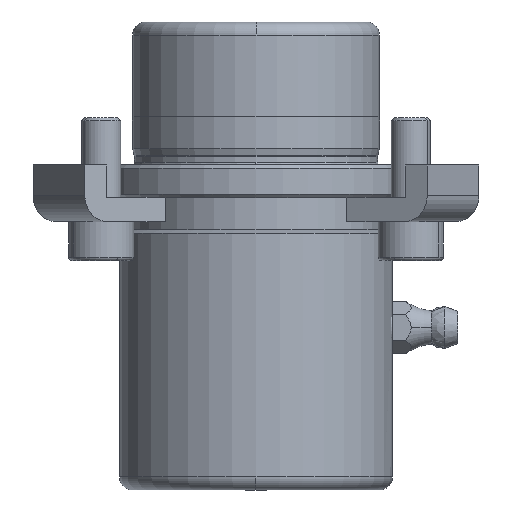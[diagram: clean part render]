
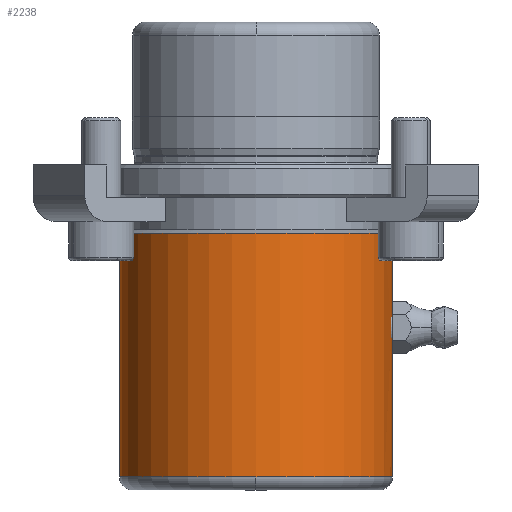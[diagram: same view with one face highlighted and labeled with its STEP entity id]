
A CAD part, front view. The second image highlights one B-rep face of the part: STEP entity #2238.
In plain terms, the highlighted cylindrical face has radius 21 mm (diameter 42 mm), a partial arc.
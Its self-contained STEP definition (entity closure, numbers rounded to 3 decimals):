
#604=CARTESIAN_POINT('',(0.,-21.,-48.));
#605=VERTEX_POINT('',#604);
#613=CARTESIAN_POINT('',(-21.0,0.,-48.0));
#614=VERTEX_POINT('',#613);
#615=CARTESIAN_POINT('',(0.0,0.,-48.0));
#616=DIRECTION('',(0.0,0.0,-1.0));
#617=DIRECTION('',(1.0,0.0,0.0));
#618=AXIS2_PLACEMENT_3D('',#615,#616,#617);
#619=CIRCLE('',#618,21.0);
#620=EDGE_CURVE('',#605,#614,#619,.T.);
#637=CARTESIAN_POINT('',(21.0,0.,-48.0));
#638=VERTEX_POINT('',#637);
#639=CARTESIAN_POINT('',(21.0,0.,-27.5));
#640=VERTEX_POINT('',#639);
#641=CARTESIAN_POINT('',(21.0,0.,-48.0));
#642=DIRECTION('',(0.0,0.0,1.0));
#643=VECTOR('',#642,20.5);
#644=LINE('',#641,#643);
#645=EDGE_CURVE('',#638,#640,#644,.T.);
#655=CARTESIAN_POINT('',(-21.0,0.,-10.5));
#656=VERTEX_POINT('',#655);
#657=CARTESIAN_POINT('',(-21.0,0.,-48.0));
#658=DIRECTION('',(0.0,0.0,1.0));
#659=VECTOR('',#658,37.5);
#660=LINE('',#657,#659);
#661=EDGE_CURVE('',#614,#656,#660,.T.);
#663=CARTESIAN_POINT('',(21.0,0.,-10.5));
#664=VERTEX_POINT('',#663);
#672=CARTESIAN_POINT('',(21.0,0.,-22.5));
#673=VERTEX_POINT('',#672);
#674=CARTESIAN_POINT('',(21.0,0.,-22.5));
#675=DIRECTION('',(0.0,0.0,1.0));
#676=VECTOR('',#675,12.0);
#677=LINE('',#674,#676);
#678=EDGE_CURVE('',#673,#664,#677,.T.);
#1577=CARTESIAN_POINT('',(20.851,-2.5,-25.0));
#1578=VERTEX_POINT('',#1577);
#1579=CARTESIAN_POINT('',(20.851,-2.5,-25.0));
#1580=CARTESIAN_POINT('',(20.851,-2.5,-24.843));
#1581=CARTESIAN_POINT('',(20.852,-2.485,-24.68));
#1582=CARTESIAN_POINT('',(20.86,-2.422,-24.357));
#1583=CARTESIAN_POINT('',(20.866,-2.373,-24.197));
#1584=CARTESIAN_POINT('',(20.88,-2.246,-23.889));
#1585=CARTESIAN_POINT('',(20.888,-2.166,-23.741));
#1586=CARTESIAN_POINT('',(20.906,-1.983,-23.468));
#1587=CARTESIAN_POINT('',(20.916,-1.879,-23.343));
#1588=CARTESIAN_POINT('',(20.935,-1.657,-23.121));
#1589=CARTESIAN_POINT('',(20.945,-1.532,-23.017));
#1590=CARTESIAN_POINT('',(20.963,-1.259,-22.834));
#1591=CARTESIAN_POINT('',(20.971,-1.111,-22.754));
#1592=CARTESIAN_POINT('',(20.985,-0.803,-22.627));
#1593=CARTESIAN_POINT('',(20.991,-0.643,-22.578));
#1594=CARTESIAN_POINT('',(20.998,-0.32,-22.515));
#1595=CARTESIAN_POINT('',(21.0,-0.157,-22.5));
#1596=CARTESIAN_POINT('',(21.0,0.,-22.5));
#1597=B_SPLINE_CURVE_WITH_KNOTS('',3,(#1579,#1580,#1581,#1582,#1583,#1584,#1585,#1586,#1587,#1588,#1589,#1590,#1591,#1592,#1593,#1594,#1595,#1596),.UNSPECIFIED.,.F.,.U.,(4,2,2,2,2,2,2,2,4),(0.0,0.471,0.943,1.414,1.885,2.357,2.828,3.299,3.771),.UNSPECIFIED.);
#1598=EDGE_CURVE('',#1578,#673,#1597,.T.);
#1600=CARTESIAN_POINT('',(21.0,0.,-27.5));
#1601=CARTESIAN_POINT('',(21.0,-0.157,-27.5));
#1602=CARTESIAN_POINT('',(20.998,-0.32,-27.485));
#1603=CARTESIAN_POINT('',(20.991,-0.643,-27.422));
#1604=CARTESIAN_POINT('',(20.985,-0.803,-27.373));
#1605=CARTESIAN_POINT('',(20.971,-1.111,-27.246));
#1606=CARTESIAN_POINT('',(20.963,-1.259,-27.166));
#1607=CARTESIAN_POINT('',(20.945,-1.532,-26.983));
#1608=CARTESIAN_POINT('',(20.935,-1.657,-26.879));
#1609=CARTESIAN_POINT('',(20.916,-1.879,-26.657));
#1610=CARTESIAN_POINT('',(20.906,-1.983,-26.532));
#1611=CARTESIAN_POINT('',(20.888,-2.166,-26.259));
#1612=CARTESIAN_POINT('',(20.88,-2.246,-26.111));
#1613=CARTESIAN_POINT('',(20.866,-2.373,-25.803));
#1614=CARTESIAN_POINT('',(20.86,-2.422,-25.643));
#1615=CARTESIAN_POINT('',(20.852,-2.485,-25.32));
#1616=CARTESIAN_POINT('',(20.851,-2.5,-25.157));
#1617=CARTESIAN_POINT('',(20.851,-2.5,-25.0));
#1618=B_SPLINE_CURVE_WITH_KNOTS('',3,(#1600,#1601,#1602,#1603,#1604,#1605,#1606,#1607,#1608,#1609,#1610,#1611,#1612,#1613,#1614,#1615,#1616,#1617),.UNSPECIFIED.,.F.,.U.,(4,2,2,2,2,2,2,2,4),(11.312,11.783,12.255,12.726,13.197,13.669,14.14,14.611,15.083),.UNSPECIFIED.);
#1619=EDGE_CURVE('',#640,#1578,#1618,.T.);
#2207=CARTESIAN_POINT('',(0.0,0.,-10.5));
#2208=DIRECTION('',(0.0,0.0,-1.0));
#2209=DIRECTION('',(1.0,0.0,0.0));
#2210=AXIS2_PLACEMENT_3D('',#2207,#2208,#2209);
#2211=CIRCLE('',#2210,21.0);
#2212=EDGE_CURVE('',#664,#656,#2211,.T.);
#2217=CARTESIAN_POINT('',(0.0,0.,-29.25));
#2218=DIRECTION('',(0.0,0.,-1.0));
#2219=DIRECTION('',(1.0,0.0,0.0));
#2220=AXIS2_PLACEMENT_3D('',#2217,#2218,#2219);
#2221=CYLINDRICAL_SURFACE('',#2220,21.0);
#2222=ORIENTED_EDGE('',*,*,#645,.T.);
#2223=ORIENTED_EDGE('',*,*,#1619,.T.);
#2224=ORIENTED_EDGE('',*,*,#1598,.T.);
#2225=ORIENTED_EDGE('',*,*,#678,.T.);
#2226=ORIENTED_EDGE('',*,*,#2212,.T.);
#2227=ORIENTED_EDGE('',*,*,#661,.F.);
#2228=ORIENTED_EDGE('',*,*,#620,.F.);
#2229=CARTESIAN_POINT('',(0.0,0.,-48.0));
#2230=DIRECTION('',(0.0,0.0,-1.0));
#2231=DIRECTION('',(1.0,0.0,0.0));
#2232=AXIS2_PLACEMENT_3D('',#2229,#2230,#2231);
#2233=CIRCLE('',#2232,21.0);
#2234=EDGE_CURVE('',#638,#605,#2233,.T.);
#2235=ORIENTED_EDGE('',*,*,#2234,.F.);
#2236=EDGE_LOOP('',(#2222,#2223,#2224,#2225,#2226,#2227,#2228,#2235));
#2237=FACE_OUTER_BOUND('',#2236,.T.);
#2238=ADVANCED_FACE('',(#2237),#2221,.T.);
